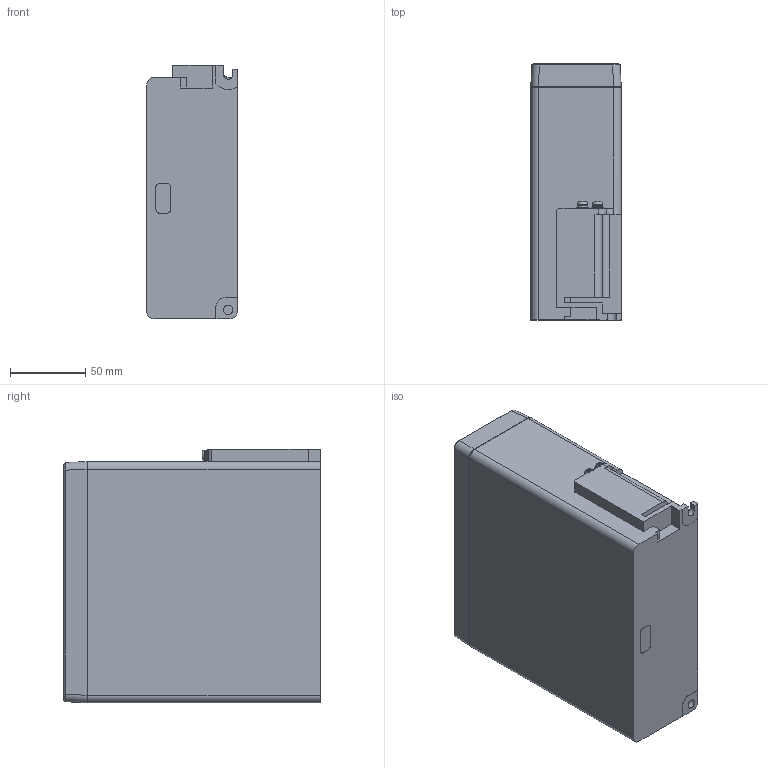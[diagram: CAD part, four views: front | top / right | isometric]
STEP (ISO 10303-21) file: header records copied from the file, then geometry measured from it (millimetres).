
FILE_DESCRIPTION((''),'2;1');
FILE_NAME('C:\Documents and Settings\11254\桌面\新資料夾\SDH-010-050A2_3D.stp','2014-08-18T20:04:13',('11254'),(''),'Autodesk Inventor 2008','Autodesk Inventor 2008','');
FILE_SCHEMA(('AUTOMOTIVE_DESIGN { 1 0 10303 214 1 1 1 1 }'));
Length unit declared in the file: millimetre
Products named in the file (1): 零件3
Bounding box: 60 x 170.3 x 168.2 mm (x, y, z)
Volume: 1508667.2 mm3; surface area: 115912.2 mm2
Topology: 1 solids, 1 shells, 2108 faces, 5891 edges, 3930 vertices
Faces by surface type: plane 1338, bspline 582, cylinder 179, cone 5, torus 4
Full cylindrical faces by diameter (mm): 4 x2, 4.2 x2, 5.5 x2, 6 x6, 6.1 x1, 6.2 x1, 6.8 x4, 8 x2, 8.1 x1
Entity records: 74616 total; most frequent: CARTESIAN_POINT 22179, ORIENTED_EDGE 11676, DIRECTION 8159, EDGE_CURVE 5838, VECTOR 4151, LINE 4151, VERTEX_POINT 3915, EDGE_LOOP 2327
